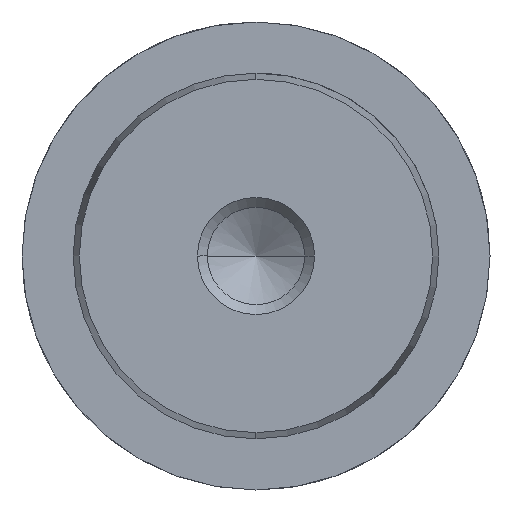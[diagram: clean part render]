
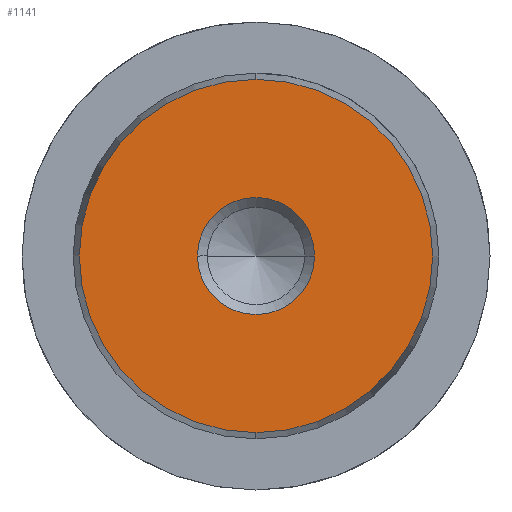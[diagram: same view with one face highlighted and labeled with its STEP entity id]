
A CAD part, left-side view. The second image highlights one B-rep face of the part: STEP entity #1141.
In plain terms, the highlighted planar face has unit normal (-1, 0, 0).
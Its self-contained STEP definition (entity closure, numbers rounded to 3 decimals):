
#1055=CARTESIAN_POINT('Vertex',(0.,0.,-12.078)) ;
#1058=CARTESIAN_POINT('Axis2P3D Location',(0.,0.,0.)) ;
#1062=CARTESIAN_POINT('Vertex',(0.,12.078,0.)) ;
#1065=CARTESIAN_POINT('Axis2P3D Location',(0.,0.,0.)) ;
#1069=CARTESIAN_POINT('Vertex',(0.,0.,12.078)) ;
#1091=CARTESIAN_POINT('Axis2P3D Location',(0.,0.,0.)) ;
#1095=CARTESIAN_POINT('Vertex',(0.,-12.078,0.)) ;
#1098=CARTESIAN_POINT('Axis2P3D Location',(0.,0.,0.)) ;
#1112=CARTESIAN_POINT('Axis2P3D Location',(0.,0.,0.)) ;
#1123=CARTESIAN_POINT('Axis2P3D Location',(0.,0.,0.)) ;
#1127=CARTESIAN_POINT('Vertex',(0.,4.,0.)) ;
#1129=CARTESIAN_POINT('Vertex',(0.,-4.,0.)) ;
#1132=CARTESIAN_POINT('Axis2P3D Location',(0.,0.,0.)) ;
#1059=DIRECTION('Axis2P3D Direction',(1.,-0.,0.)) ;
#1066=DIRECTION('Axis2P3D Direction',(1.,-0.,0.)) ;
#1092=DIRECTION('Axis2P3D Direction',(1.,0.,-0.)) ;
#1099=DIRECTION('Axis2P3D Direction',(1.,0.,-0.)) ;
#1113=DIRECTION('Axis2P3D Direction',(1.,0.,-0.)) ;
#1114=DIRECTION('Axis2P3D XDirection',(-0.,0.,-1.)) ;
#1124=DIRECTION('Axis2P3D Direction',(1.,0.,-0.)) ;
#1133=DIRECTION('Axis2P3D Direction',(1.,0.,-0.)) ;
#1060=AXIS2_PLACEMENT_3D('Circle Axis2P3D',#1058,#1059,$) ;
#1067=AXIS2_PLACEMENT_3D('Circle Axis2P3D',#1065,#1066,$) ;
#1093=AXIS2_PLACEMENT_3D('Circle Axis2P3D',#1091,#1092,$) ;
#1100=AXIS2_PLACEMENT_3D('Circle Axis2P3D',#1098,#1099,$) ;
#1115=AXIS2_PLACEMENT_3D('Plane Axis2P3D',#1112,#1113,#1114) ;
#1125=AXIS2_PLACEMENT_3D('Circle Axis2P3D',#1123,#1124,$) ;
#1134=AXIS2_PLACEMENT_3D('Circle Axis2P3D',#1132,#1133,$) ;
#1118=ORIENTED_EDGE('',*,*,#1064,.F.) ;
#1119=ORIENTED_EDGE('',*,*,#1102,.F.) ;
#1120=ORIENTED_EDGE('',*,*,#1097,.F.) ;
#1121=ORIENTED_EDGE('',*,*,#1071,.F.) ;
#1138=ORIENTED_EDGE('',*,*,#1131,.T.) ;
#1139=ORIENTED_EDGE('',*,*,#1136,.T.) ;
#1140=FACE_BOUND('',#1137,.T.) ;
#1141=ADVANCED_FACE('719-25x180',(#1122,#1140),#1116,.F.) ;
#1061=CIRCLE('generated circle',#1060,12.078) ;
#1068=CIRCLE('generated circle',#1067,12.078) ;
#1094=CIRCLE('generated circle',#1093,12.078) ;
#1101=CIRCLE('generated circle',#1100,12.078) ;
#1126=CIRCLE('generated circle',#1125,4.) ;
#1135=CIRCLE('generated circle',#1134,4.) ;
#1064=EDGE_CURVE('',#1056,#1063,#1061,.T.) ;
#1071=EDGE_CURVE('',#1063,#1070,#1068,.T.) ;
#1097=EDGE_CURVE('',#1070,#1096,#1094,.T.) ;
#1102=EDGE_CURVE('',#1096,#1056,#1101,.T.) ;
#1131=EDGE_CURVE('',#1128,#1130,#1126,.T.) ;
#1136=EDGE_CURVE('',#1130,#1128,#1135,.T.) ;
#1117=EDGE_LOOP('',(#1118,#1119,#1120,#1121)) ;
#1137=EDGE_LOOP('',(#1138,#1139)) ;
#1122=FACE_OUTER_BOUND('',#1117,.T.) ;
#1116=PLANE('Plane',#1115) ;
#1056=VERTEX_POINT('',#1055) ;
#1063=VERTEX_POINT('',#1062) ;
#1070=VERTEX_POINT('',#1069) ;
#1096=VERTEX_POINT('',#1095) ;
#1128=VERTEX_POINT('',#1127) ;
#1130=VERTEX_POINT('',#1129) ;
